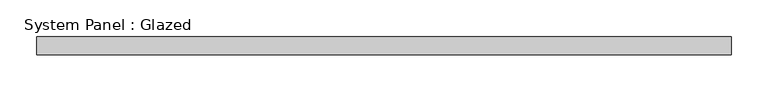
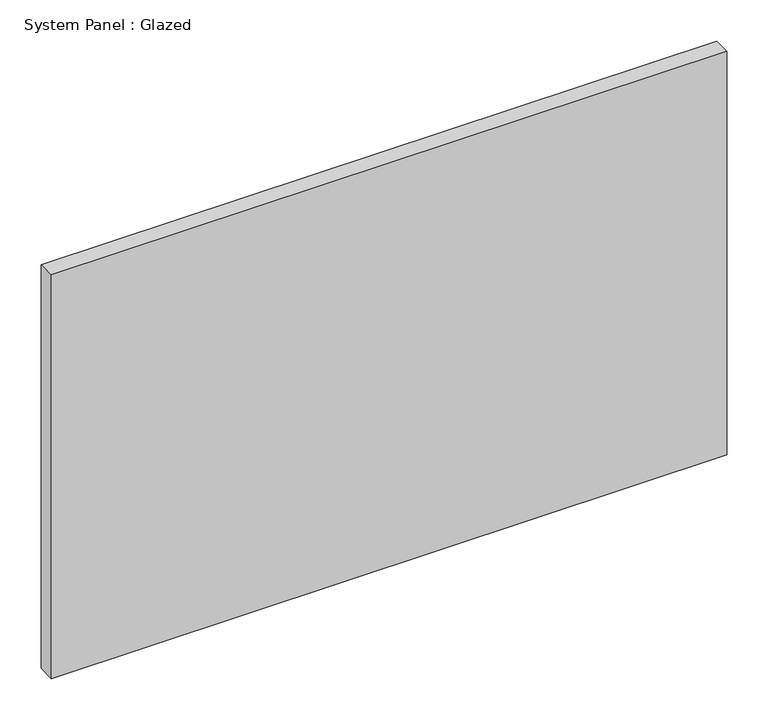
"""IFC4 building model written with IfcOpenShell, lengths in millimetres: plate geometry, System Panel : Glazed."""

from ifc_helpers import new_model, si_unit, origin, origin_with_axes, place, context, project, spatial, polyline, outline, extrude, source, transform, mapped, element, save


def system_panel_glazed_1be11d23(model_context):
    return source(origin(), model_context, "Body", "SweptSolid", [
        extrude(outline(polyline([(475.0000001, 24.5), (-475.0000001, 24.5), (-475.0000001, 49.5), (475.0000001, 49.5), (475.0000001, 24.5)])), origin_with_axes(), (0.0, 0.0, 1.0), 600.0),
    ])


if __name__ == "__main__":
    model = new_model("IFC4")
    model_context = context("Model", 3, world=origin())
    ifc_project = project(units=[si_unit("LENGTHUNIT", "METRE", prefix="MILLI")], contexts=[model_context])
    site = spatial("IfcSite", under=ifc_project)
    building = spatial("IfcBuilding", under=site)
    placement = place(None, origin())
    system_panel_glazed_shape = system_panel_glazed_1be11d23(model_context)
    element("IfcPlate", 1, ObjectType="System Panel : Glazed", at=placement, inside=building, context=model_context, shape_type="MappedRepresentation", body=[
        mapped(system_panel_glazed_shape, transform((0.0, 0.0, 0.0), x_axis=(1.0, 0.0, 0.0), y_axis=(0.0, 1.0, 0.0), z_axis=(0.0, 0.0, 1.0))),
    ])
    save(model, "model.ifc")
